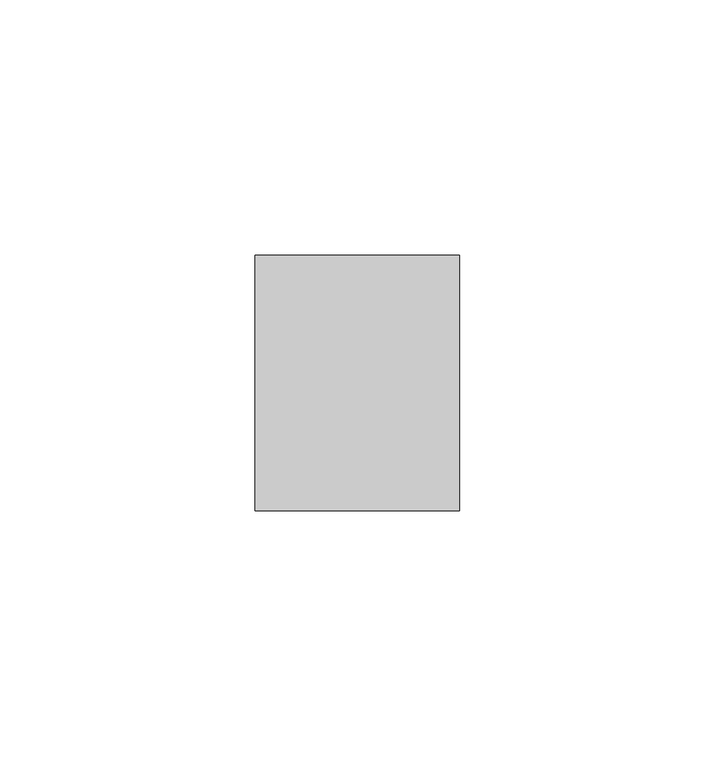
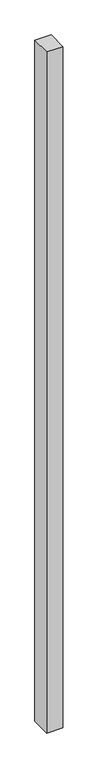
"""IFC4 building model written with IfcOpenShell, lengths in millimetres: member geometry, Прямоугольный импост : 40х50."""

import ifcopenshell
import ifcopenshell.guid

model = None  # the IFC model being written
_history = None  # IfcOwnerHistory: only IFC2X3 demands one
_inside = {}  # id of a spatial element -> (the spatial element, [elements in it])
_under = {}  # id of a project, library or spatial element -> (it, [spatial elements below it])
_declared = {}  # id of a project -> (the project, [libraries it declares])
_typed = {}  # id of a type object -> (the type object, [elements of that type])
_made_of = {}  # id of a material, layer set ... -> (it, [elements and type objects made of it])


def new_model(schema):
    """Start an empty IFC model of exactly this schema.

    Asked for "IFC4X3", IfcOpenShell would pick the latest addendum, in which some entities
    have other attributes; the version numbers below select the first issue.
    IFC2X3 requires an IfcOwnerHistory on every rooted entity: one is made here for all.
    """
    global model, _history
    if schema == "IFC4X3":
        model = ifcopenshell.file(schema_version=(4, 3, 0, 0))
    else:
        model = ifcopenshell.file(schema=schema)
    _inside.clear()
    _under.clear()
    _declared.clear()
    _typed.clear()
    _made_of.clear()
    _history = None
    if model.schema == "IFC2X3":
        org = make("IfcOrganization", Name="unknown")
        user = make(
            "IfcPersonAndOrganization",
            ThePerson=make("IfcPerson", FamilyName="unknown"),
            TheOrganization=org,
        )
        app = make(
            "IfcApplication",
            ApplicationDeveloper=org,
            Version="unknown",
            ApplicationFullName="unknown",
            ApplicationIdentifier="unknown",
        )
        _history = make(
            "IfcOwnerHistory",
            OwningUser=user,
            OwningApplication=app,
            ChangeAction="ADDED",
            CreationDate=0,
        )
    return model


def make(cls, **values):
    """One entity of the class cls with the attributes given. An attribute that is None is left unset."""
    return model.create_entity(
        cls, **{name: value for name, value in values.items() if value is not None}
    )


def rooted(cls, **values):
    """An entity with a GlobalId (a new one), such as an element, a storey or a relation."""
    return make(cls, GlobalId=ifcopenshell.guid.new(), OwnerHistory=_history, **values)


def si_unit(unit_type, name, prefix=None):
    """IfcSIUnit, for example si_unit("LENGTHUNIT", "METRE", prefix="MILLI")."""
    return make("IfcSIUnit", UnitType=unit_type, Prefix=prefix, Name=name)


def assignment(units):
    """IfcUnitAssignment: the units of a project."""
    return None if units is None else make("IfcUnitAssignment", Units=units)


def point(xyz):
    """IfcCartesianPoint."""
    return None if xyz is None else make("IfcCartesianPoint", Coordinates=xyz)


def direction(xyz):
    """IfcDirection."""
    return None if xyz is None else make("IfcDirection", DirectionRatios=xyz)


def frame(location, z_axis=None, x_axis=None):
    """IfcAxis2Placement3D, a coordinate frame: its origin and axes. An axis left out is left unset."""
    return make(
        "IfcAxis2Placement3D",
        Location=point(location),
        Axis=direction(z_axis),
        RefDirection=direction(x_axis),
    )


def origin():
    """The frame at (0, 0, 0) with its axes left unset."""
    return frame((0.0, 0.0, 0.0))


def place(relative_to, where):
    """IfcLocalPlacement: puts the frame where relative to a parent placement (None: the world)."""
    return make(
        "IfcLocalPlacement", PlacementRelTo=relative_to, RelativePlacement=where
    )


def context(
    kind, dimensions, precision=None, world=None, true_north=None, identifier=None
):
    """IfcGeometricRepresentationContext, for example the 3D "Model" context."""
    return make(
        "IfcGeometricRepresentationContext",
        ContextIdentifier=identifier,
        ContextType=kind,
        CoordinateSpaceDimension=dimensions,
        Precision=precision,
        WorldCoordinateSystem=world,
        TrueNorth=true_north,
    )


def project(units=None, contexts=None):
    """IfcProject with its units and contexts."""
    return rooted(
        "IfcProject",
        Name="project",
        RepresentationContexts=contexts,
        UnitsInContext=assignment(units),
    )


def spatial(cls, under=None, at=None, **own):
    """A site, building, storey or space (cls), placed at a placement, below another one or the project."""
    s = rooted(cls, ObjectPlacement=at, **own)
    if under is not None:
        _under.setdefault(under.id(), (under, []))[1].append(s)
    return s


def polyline(points):
    """IfcPolyline through the points."""
    return make("IfcPolyline", Points=[point(p) for p in points])


def outline(outer, holes=None, kind="AREA"):
    """IfcArbitraryClosedProfileDef: a profile drawn as a closed curve; with holes, ...WithVoids."""
    if holes is None:
        return make("IfcArbitraryClosedProfileDef", ProfileType=kind, OuterCurve=outer)
    return make(
        "IfcArbitraryProfileDefWithVoids",
        ProfileType=kind,
        OuterCurve=outer,
        InnerCurves=holes,
    )


def extrude(swept, where, along, depth):
    """IfcExtrudedAreaSolid: the profile swept, set in the frame where, extruded along a direction by depth."""
    return make(
        "IfcExtrudedAreaSolid",
        SweptArea=swept,
        Position=where,
        ExtrudedDirection=direction(along),
        Depth=depth,
    )


def shape(context_of_items, identifier, shape_type, items):
    """IfcShapeRepresentation: the items that make up one representation, for example the "Body"."""
    return make(
        "IfcShapeRepresentation",
        ContextOfItems=context_of_items,
        RepresentationIdentifier=identifier,
        RepresentationType=shape_type,
        Items=items,
    )


def source(mapping_origin, context_of_items, identifier, shape_type, items):
    """IfcRepresentationMap: a shape defined once, which mapped items show again and again."""
    return make(
        "IfcRepresentationMap",
        MappingOrigin=mapping_origin,
        MappedRepresentation=shape(context_of_items, identifier, shape_type, items),
    )


def transform(
    local_origin,
    x_axis=None,
    y_axis=None,
    z_axis=None,
    scale=None,
    scale2=None,
    scale3=None,
    uniform=True,
):
    """IfcCartesianTransformationOperator3D, or its non-uniform kind. x_axis, y_axis, z_axis: its Axis1, 2, 3."""
    if uniform:
        return make(
            "IfcCartesianTransformationOperator3D",
            Axis1=direction(x_axis),
            Axis2=direction(y_axis),
            LocalOrigin=point(local_origin),
            Scale=scale,
            Axis3=direction(z_axis),
        )
    return make(
        "IfcCartesianTransformationOperator3DnonUniform",
        Axis1=direction(x_axis),
        Axis2=direction(y_axis),
        LocalOrigin=point(local_origin),
        Scale=scale,
        Axis3=direction(z_axis),
        Scale2=scale2,
        Scale3=scale3,
    )


def mapped(mapping_source, mapping_target):
    """IfcMappedItem: shows the shape of a source again, moved by a transform."""
    return make(
        "IfcMappedItem", MappingSource=mapping_source, MappingTarget=mapping_target
    )


def made_of(thing, what):
    """Note that an element or type object is made of a material, layer set ...; save() writes the relation."""
    if what is not None:
        _made_of.setdefault(what.id(), (what, []))[1].append(thing)
    return thing


def element(
    cls,
    number,
    at=None,
    inside=None,
    cuts=None,
    type_object=None,
    material=None,
    context=None,
    identifier="Body",
    shape_type=None,
    held_by="IfcProductDefinitionShape",
    body=None,
    shapes=None,
    **own,
):
    """One element of the class cls, such as IfcWall. Its Tag is "e" and its number.

    at: its placement. inside: the storey or other place that contains it. cuts: it is an
    opening in that element (IfcRelVoidsElement). A single representation is given by context,
    identifier, shape_type and body (its items); several are given by shapes. held_by: the class
    of the entity that holds the representations. save() writes the other relations.
    """
    e = rooted(cls, Tag="e%d" % number, ObjectPlacement=at, **own)
    if body is not None:
        shapes = [shape(context, identifier, shape_type, body)]
    if shapes is not None:
        e.Representation = make(held_by, Representations=shapes)
    if inside is not None:
        _inside.setdefault(inside.id(), (inside, []))[1].append(e)
    if cuts is not None:
        rooted(
            "IfcRelVoidsElement", RelatingBuildingElement=cuts, RelatedOpeningElement=e
        )
    if type_object is not None:
        _typed.setdefault(type_object.id(), (type_object, []))[1].append(e)
    return made_of(e, material)


def aggregate(whole, parts):
    """IfcRelAggregates: a whole, such as a stair, and the parts it consists of."""
    return rooted("IfcRelAggregates", RelatingObject=whole, RelatedObjects=parts)


def save(model, path):
    """Write the relations noted so far, then the file.

    IfcRelAggregates (storeys below a building ...), IfcRelContainedInSpatialStructure (elements
    in a storey), IfcRelDefinesByType, IfcRelAssociatesMaterial and IfcRelDeclares: one each for
    every whole, place, type object, material and project.
    """
    for whole, parts in _under.values():
        aggregate(whole, parts)
    for where, things in _inside.values():
        rooted(
            "IfcRelContainedInSpatialStructure",
            RelatedElements=things,
            RelatingStructure=where,
        )
    for kind, things in _typed.values():
        rooted("IfcRelDefinesByType", RelatedObjects=things, RelatingType=kind)
    for what, things in _made_of.values():
        rooted("IfcRelAssociatesMaterial", RelatedObjects=things, RelatingMaterial=what)
    for by, libraries in _declared.values():
        rooted("IfcRelDeclares", RelatingContext=by, RelatedDefinitions=libraries)
    model.write(path)


def member_3a82393a(model_context):
    return source(origin(), model_context, "Body", "SweptSolid", [
        extrude(outline(polyline([(0.0, 50.0), (0.0, 0.0), (-40.0, 0.0), (-40.0, 50.0), (0.0, 50.0)])), frame((0.0, 0.0, -1777.5), z_axis=(0.0, 0.0, 1.0), x_axis=(1.0, 0.0, 0.0)), (0.0, 0.0, 1.0), 1777.5),
    ])


if __name__ == "__main__":
    model = new_model("IFC4")
    model_context = context("Model", 3, world=origin())
    ifc_project = project(units=[si_unit("LENGTHUNIT", "METRE", prefix="MILLI")], contexts=[model_context])
    site = spatial("IfcSite", under=ifc_project)
    building = spatial("IfcBuilding", under=site)
    placement = place(None, origin())
    member_shape = member_3a82393a(model_context)
    element("IfcMember", 1, ObjectType="Прямоугольный импост : 40х50", at=placement, inside=building, context=model_context, shape_type="MappedRepresentation", body=[
        mapped(member_shape, transform((0.0, 0.0, 0.0), x_axis=(1.0, 0.0, 0.0), y_axis=(0.0, 1.0, 0.0), z_axis=(0.0, 0.0, 1.0))),
    ])
    save(model, "model.ifc")
